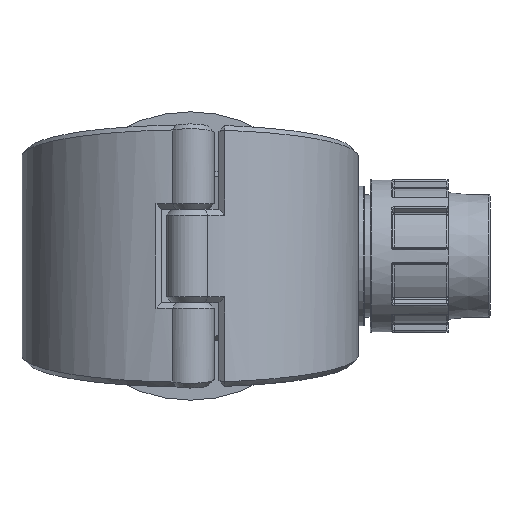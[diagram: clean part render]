
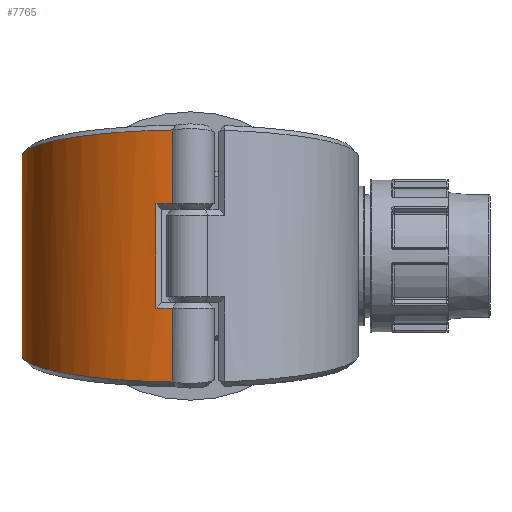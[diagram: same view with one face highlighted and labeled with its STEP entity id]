
A CAD part, front view. The second image highlights one B-rep face of the part: STEP entity #7765.
In plain terms, the highlighted cylindrical face has radius 59.5 mm (diameter 119 mm), a partial arc.
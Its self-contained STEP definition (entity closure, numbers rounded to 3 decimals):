
#263=CYLINDRICAL_SURFACE('',#8320,59.5);
#584=FACE_OUTER_BOUND('',#1104,.T.);
#1104=EDGE_LOOP('',(#5280,#5281,#5282,#5283,#5284,#5285,#5286,#5287,#5288,
#5289,#5290,#5291));
#1644=B_SPLINE_CURVE_WITH_KNOTS('',3,(#11843,#11844,#11845,#11846),
 .UNSPECIFIED.,.F.,.F.,(4,4),(-0.002,0.),.UNSPECIFIED.);
#1645=B_SPLINE_CURVE_WITH_KNOTS('',3,(#11848,#11849,#11850,#11851),
 .UNSPECIFIED.,.F.,.F.,(4,4),(-3.037,-3.037),
 .UNSPECIFIED.);
#1646=B_SPLINE_CURVE_WITH_KNOTS('',3,(#11853,#11854,#11855,#11856,#11857,
#11858,#11859,#11860,#11861,#11862),.UNSPECIFIED.,.F.,.F.,(4,1,1,1,1,1,
1,4),(0.316,0.596,1.005,1.415,
1.824,2.233,2.642,3.037),
 .UNSPECIFIED.);
#1647=B_SPLINE_CURVE_WITH_KNOTS('',3,(#11866,#11867,#11868,#11869,#11870,
#11871,#11872,#11873,#11874,#11875),.UNSPECIFIED.,.F.,.F.,(4,1,1,1,1,1,
1,4),(-3.037,-2.642,-2.233,-1.824,
-1.415,-1.005,-0.596,-0.316),
 .UNSPECIFIED.);
#1648=B_SPLINE_CURVE_WITH_KNOTS('',3,(#11877,#11878,#11879,#11880),
 .UNSPECIFIED.,.F.,.F.,(4,4),(3.037,3.037),
 .UNSPECIFIED.);
#1649=B_SPLINE_CURVE_WITH_KNOTS('',3,(#11882,#11883,#11884,#11885),
 .UNSPECIFIED.,.F.,.F.,(4,4),(-0.435,-0.433),
 .UNSPECIFIED.);
#1921=LINE('',#11777,#2291);
#1927=LINE('',#11841,#2297);
#1928=LINE('',#11864,#2298);
#1929=LINE('',#11886,#2299);
#2291=VECTOR('',#9336,10.);
#2297=VECTOR('',#9382,10.);
#2298=VECTOR('',#9383,10.);
#2299=VECTOR('',#9384,10.);
#2666=CIRCLE('',#8310,59.5);
#2669=CIRCLE('',#8315,59.5);
#3229=VERTEX_POINT('',#11771);
#3230=VERTEX_POINT('',#11776);
#3236=VERTEX_POINT('',#11797);
#3239=VERTEX_POINT('',#11818);
#3243=VERTEX_POINT('',#11840);
#3244=VERTEX_POINT('',#11842);
#3245=VERTEX_POINT('',#11847);
#3246=VERTEX_POINT('',#11852);
#3247=VERTEX_POINT('',#11863);
#3248=VERTEX_POINT('',#11865);
#3249=VERTEX_POINT('',#11876);
#3250=VERTEX_POINT('',#11881);
#3984=EDGE_CURVE('',#3229,#3230,#1921,.T.);
#3997=EDGE_CURVE('',#3236,#3229,#2666,.T.);
#4002=EDGE_CURVE('',#3230,#3239,#2669,.T.);
#4008=EDGE_CURVE('',#3243,#3236,#1927,.T.);
#4009=EDGE_CURVE('',#3244,#3243,#1644,.T.);
#4010=EDGE_CURVE('',#3244,#3245,#1645,.T.);
#4011=EDGE_CURVE('',#3246,#3245,#1646,.T.);
#4012=EDGE_CURVE('',#3247,#3246,#1928,.T.);
#4013=EDGE_CURVE('',#3248,#3247,#1647,.T.);
#4014=EDGE_CURVE('',#3248,#3249,#1648,.T.);
#4015=EDGE_CURVE('',#3250,#3249,#1649,.T.);
#4016=EDGE_CURVE('',#3239,#3250,#1929,.T.);
#5280=ORIENTED_EDGE('',*,*,#4002,.F.);
#5281=ORIENTED_EDGE('',*,*,#3984,.F.);
#5282=ORIENTED_EDGE('',*,*,#3997,.F.);
#5283=ORIENTED_EDGE('',*,*,#4008,.F.);
#5284=ORIENTED_EDGE('',*,*,#4009,.F.);
#5285=ORIENTED_EDGE('',*,*,#4010,.T.);
#5286=ORIENTED_EDGE('',*,*,#4011,.F.);
#5287=ORIENTED_EDGE('',*,*,#4012,.F.);
#5288=ORIENTED_EDGE('',*,*,#4013,.F.);
#5289=ORIENTED_EDGE('',*,*,#4014,.T.);
#5290=ORIENTED_EDGE('',*,*,#4015,.F.);
#5291=ORIENTED_EDGE('',*,*,#4016,.F.);
#7765=ADVANCED_FACE('',(#584),#263,.T.);
#8310=AXIS2_PLACEMENT_3D('',#11813,#9358,#9359);
#8315=AXIS2_PLACEMENT_3D('',#11827,#9368,#9369);
#8320=AXIS2_PLACEMENT_3D('',#11839,#9380,#9381);
#9336=DIRECTION('',(0.,0.,-1.));
#9358=DIRECTION('center_axis',(0.,0.,-1.));
#9359=DIRECTION('ref_axis',(0.312,-0.95,0.));
#9368=DIRECTION('center_axis',(0.,0.,1.));
#9369=DIRECTION('ref_axis',(0.312,-0.95,0.));
#9380=DIRECTION('center_axis',(0.,0.,1.));
#9381=DIRECTION('ref_axis',(-0.312,0.95,0.));
#9382=DIRECTION('',(0.,0.,-1.));
#9383=DIRECTION('',(0.,0.,1.));
#9384=DIRECTION('',(0.,0.,-1.));
#11771=CARTESIAN_POINT('',(-12.115,-58.254,18.45));
#11776=CARTESIAN_POINT('',(-12.115,-58.254,-18.45));
#11777=CARTESIAN_POINT('',(-12.115,-58.254,0.));
#11797=CARTESIAN_POINT('',(-6.19,-59.177,18.45));
#11813=CARTESIAN_POINT('Origin',(0.,0.,18.45));
#11818=CARTESIAN_POINT('',(-6.19,-59.177,-18.45));
#11827=CARTESIAN_POINT('Origin',(0.,0.,-18.45));
#11839=CARTESIAN_POINT('Origin',(0.,0.,0.));
#11840=CARTESIAN_POINT('',(-6.19,-59.177,44.557));
#11841=CARTESIAN_POINT('',(-6.19,-59.177,0.));
#11842=CARTESIAN_POINT('',(-6.17,-59.179,44.571));
#11843=CARTESIAN_POINT('Ctrl Pts',(-6.17,-59.179,
44.571));
#11844=CARTESIAN_POINT('Ctrl Pts',(-6.176,-59.178,
44.566));
#11845=CARTESIAN_POINT('Ctrl Pts',(-6.183,-59.177,
44.562));
#11846=CARTESIAN_POINT('Ctrl Pts',(-6.19,-59.177,
44.557));
#11847=CARTESIAN_POINT('',(-6.19,-59.177,44.571));
#11848=CARTESIAN_POINT('Ctrl Pts',(-6.17,-59.179,
44.571));
#11849=CARTESIAN_POINT('Ctrl Pts',(-6.177,-59.178,
44.571));
#11850=CARTESIAN_POINT('Ctrl Pts',(-6.183,-59.178,
44.571));
#11851=CARTESIAN_POINT('Ctrl Pts',(-6.19,-59.177,
44.571));
#11852=CARTESIAN_POINT('',(-18.579,56.525,26.198));
#11853=CARTESIAN_POINT('Ctrl Pts',(-18.578,56.522,26.198));
#11854=CARTESIAN_POINT('Ctrl Pts',(-23.883,54.777,26.474));
#11855=CARTESIAN_POINT('Ctrl Pts',(-36.333,48.653,27.441));
#11856=CARTESIAN_POINT('Ctrl Pts',(-51.816,32.553,29.988));
#11857=CARTESIAN_POINT('Ctrl Pts',(-60.498,9.2,33.688));
#11858=CARTESIAN_POINT('Ctrl Pts',(-59.15,-15.622,
37.631));
#11859=CARTESIAN_POINT('Ctrl Pts',(-48.086,-37.823,
41.164));
#11860=CARTESIAN_POINT('Ctrl Pts',(-29.375,-53.586,
43.678));
#11861=CARTESIAN_POINT('Ctrl Pts',(-13.932,-58.366,
44.441));
#11862=CARTESIAN_POINT('Ctrl Pts',(-6.19,-59.177,44.571));
#11863=CARTESIAN_POINT('',(-18.579,56.525,-26.198));
#11864=CARTESIAN_POINT('',(-18.579,56.525,0.));
#11865=CARTESIAN_POINT('',(-6.19,-59.177,-44.571));
#11866=CARTESIAN_POINT('Ctrl Pts',(-6.19,-59.177,
-44.571));
#11867=CARTESIAN_POINT('Ctrl Pts',(-13.932,-58.366,-44.441));
#11868=CARTESIAN_POINT('Ctrl Pts',(-29.375,-53.586,
-43.678));
#11869=CARTESIAN_POINT('Ctrl Pts',(-48.086,-37.823,
-41.164));
#11870=CARTESIAN_POINT('Ctrl Pts',(-59.151,-15.622,
-37.631));
#11871=CARTESIAN_POINT('Ctrl Pts',(-60.497,9.2,-33.688));
#11872=CARTESIAN_POINT('Ctrl Pts',(-51.819,32.555,-29.987));
#11873=CARTESIAN_POINT('Ctrl Pts',(-36.33,48.65,-27.442));
#11874=CARTESIAN_POINT('Ctrl Pts',(-23.882,54.776,-26.474));
#11875=CARTESIAN_POINT('Ctrl Pts',(-18.578,56.522,-26.198));
#11876=CARTESIAN_POINT('',(-6.17,-59.179,-44.571));
#11877=CARTESIAN_POINT('Ctrl Pts',(-6.19,-59.177,
-44.571));
#11878=CARTESIAN_POINT('Ctrl Pts',(-6.183,-59.178,-44.571));
#11879=CARTESIAN_POINT('Ctrl Pts',(-6.177,-59.178,-44.571));
#11880=CARTESIAN_POINT('Ctrl Pts',(-6.17,-59.179,
-44.571));
#11881=CARTESIAN_POINT('',(-6.19,-59.177,-44.557));
#11882=CARTESIAN_POINT('Ctrl Pts',(-6.19,-59.177,-44.557));
#11883=CARTESIAN_POINT('Ctrl Pts',(-6.183,-59.177,
-44.562));
#11884=CARTESIAN_POINT('Ctrl Pts',(-6.176,-59.178,
-44.566));
#11885=CARTESIAN_POINT('Ctrl Pts',(-6.17,-59.179,-44.571));
#11886=CARTESIAN_POINT('',(-6.19,-59.177,0.));
